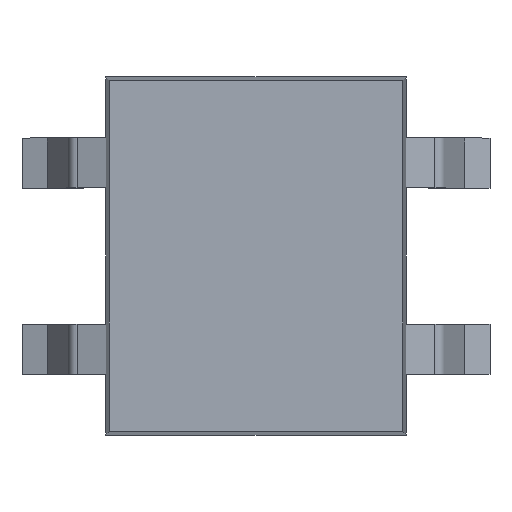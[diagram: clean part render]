
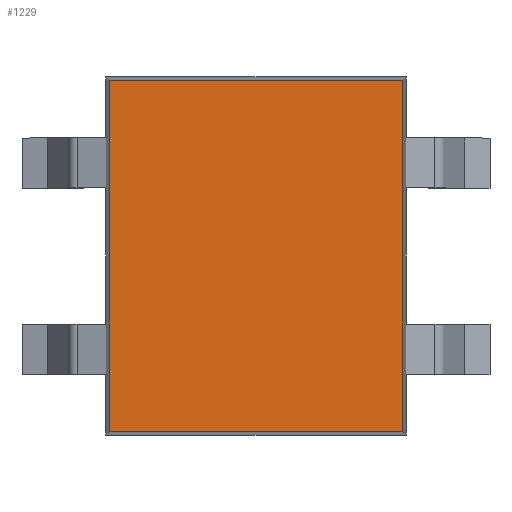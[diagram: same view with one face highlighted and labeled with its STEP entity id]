
A CAD part, top view. The second image highlights one B-rep face of the part: STEP entity #1229.
In plain terms, the highlighted planar face has unit normal (0, 0, 1).
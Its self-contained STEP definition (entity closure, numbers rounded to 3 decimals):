
#32 = PLANE('',#33);
#33 = AXIS2_PLACEMENT_3D('',#34,#35,#36);
#34 = CARTESIAN_POINT('',(2.075,0.,2.22));
#35 = DIRECTION('',(0.999,0.,0.037
    ));
#36 = DIRECTION('',(-0.037,0.,
    0.999));
#57 = VERTEX_POINT('',#58);
#58 = CARTESIAN_POINT('',(2.05,2.45,2.9));
#72 = PLANE('',#73);
#73 = AXIS2_PLACEMENT_3D('',#74,#75,#76);
#74 = CARTESIAN_POINT('',(0.,2.475,2.219));
#75 = DIRECTION('',(0.,0.999,0.037
    ));
#76 = DIRECTION('',(0.,-0.037,0.999));
#84 = EDGE_CURVE('',#85,#57,#87,.T.);
#85 = VERTEX_POINT('',#86);
#86 = CARTESIAN_POINT('',(2.05,-2.45,2.9));
#87 = SURFACE_CURVE('',#88,(#92,#99),.PCURVE_S1.);
#88 = LINE('',#89,#90);
#89 = CARTESIAN_POINT('',(2.05,-2.45,2.9));
#90 = VECTOR('',#91,1.);
#91 = DIRECTION('',(0.,1.,0.));
#92 = PCURVE('',#32,#93);
#93 = DEFINITIONAL_REPRESENTATION('',(#94),#98);
#94 = LINE('',#95,#96);
#95 = CARTESIAN_POINT('',(0.681,2.45));
#96 = VECTOR('',#97,1.);
#97 = DIRECTION('',(0.,-1.));
#98 = ( GEOMETRIC_REPRESENTATION_CONTEXT(2) 
PARAMETRIC_REPRESENTATION_CONTEXT() REPRESENTATION_CONTEXT('2D SPACE',''
  ) );
#99 = PCURVE('',#100,#105);
#100 = PLANE('',#101);
#101 = AXIS2_PLACEMENT_3D('',#102,#103,#104);
#102 = CARTESIAN_POINT('',(0.,0.,2.9)
  );
#103 = DIRECTION('',(0.,0.,1.));
#104 = DIRECTION('',(1.,0.,0.));
#105 = DEFINITIONAL_REPRESENTATION('',(#106),#110);
#106 = LINE('',#107,#108);
#107 = CARTESIAN_POINT('',(2.05,-2.45));
#108 = VECTOR('',#109,1.);
#109 = DIRECTION('',(0.,1.));
#110 = ( GEOMETRIC_REPRESENTATION_CONTEXT(2) 
PARAMETRIC_REPRESENTATION_CONTEXT() REPRESENTATION_CONTEXT('2D SPACE',''
  ) );
#128 = PLANE('',#129);
#129 = AXIS2_PLACEMENT_3D('',#130,#131,#132);
#130 = CARTESIAN_POINT('',(0.,-2.475,2.219));
#131 = DIRECTION('',(0.,-0.999,0.037));
#132 = DIRECTION('',(0.,-0.037,-0.999));
#1181 = EDGE_CURVE('',#1182,#85,#1184,.T.);
#1182 = VERTEX_POINT('',#1183);
#1183 = CARTESIAN_POINT('',(-2.05,-2.45,2.9));
#1184 = SURFACE_CURVE('',#1185,(#1189,#1196),.PCURVE_S1.);
#1185 = LINE('',#1186,#1187);
#1186 = CARTESIAN_POINT('',(-2.05,-2.45,2.9));
#1187 = VECTOR('',#1188,1.);
#1188 = DIRECTION('',(1.,0.,0.));
#1189 = PCURVE('',#128,#1190);
#1190 = DEFINITIONAL_REPRESENTATION('',(#1191),#1195);
#1191 = LINE('',#1192,#1193);
#1192 = CARTESIAN_POINT('',(-0.682,-2.05));
#1193 = VECTOR('',#1194,1.);
#1194 = DIRECTION('',(0.,1.));
#1195 = ( GEOMETRIC_REPRESENTATION_CONTEXT(2) 
PARAMETRIC_REPRESENTATION_CONTEXT() REPRESENTATION_CONTEXT('2D SPACE',''
  ) );
#1196 = PCURVE('',#100,#1197);
#1197 = DEFINITIONAL_REPRESENTATION('',(#1198),#1202);
#1198 = LINE('',#1199,#1200);
#1199 = CARTESIAN_POINT('',(-2.05,-2.45));
#1200 = VECTOR('',#1201,1.);
#1201 = DIRECTION('',(1.,0.));
#1202 = ( GEOMETRIC_REPRESENTATION_CONTEXT(2) 
PARAMETRIC_REPRESENTATION_CONTEXT() REPRESENTATION_CONTEXT('2D SPACE',''
  ) );
#1218 = PLANE('',#1219);
#1219 = AXIS2_PLACEMENT_3D('',#1220,#1221,#1222);
#1220 = CARTESIAN_POINT('',(-2.075,0.,2.22));
#1221 = DIRECTION('',(-0.999,0.,
    0.037));
#1222 = DIRECTION('',(-0.037,0.,-0.999));
#1229 = ADVANCED_FACE('',(#1230),#100,.T.);
#1230 = FACE_BOUND('',#1231,.T.);
#1231 = EDGE_LOOP('',(#1232,#1233,#1256,#1277));
#1232 = ORIENTED_EDGE('',*,*,#84,.T.);
#1233 = ORIENTED_EDGE('',*,*,#1234,.T.);
#1234 = EDGE_CURVE('',#57,#1235,#1237,.T.);
#1235 = VERTEX_POINT('',#1236);
#1236 = CARTESIAN_POINT('',(-2.05,2.45,2.9));
#1237 = SURFACE_CURVE('',#1238,(#1242,#1249),.PCURVE_S1.);
#1238 = LINE('',#1239,#1240);
#1239 = CARTESIAN_POINT('',(2.05,2.45,2.9));
#1240 = VECTOR('',#1241,1.);
#1241 = DIRECTION('',(-1.,0.,0.));
#1242 = PCURVE('',#100,#1243);
#1243 = DEFINITIONAL_REPRESENTATION('',(#1244),#1248);
#1244 = LINE('',#1245,#1246);
#1245 = CARTESIAN_POINT('',(2.05,2.45));
#1246 = VECTOR('',#1247,1.);
#1247 = DIRECTION('',(-1.,0.));
#1248 = ( GEOMETRIC_REPRESENTATION_CONTEXT(2) 
PARAMETRIC_REPRESENTATION_CONTEXT() REPRESENTATION_CONTEXT('2D SPACE',''
  ) );
#1249 = PCURVE('',#72,#1250);
#1250 = DEFINITIONAL_REPRESENTATION('',(#1251),#1255);
#1251 = LINE('',#1252,#1253);
#1252 = CARTESIAN_POINT('',(0.682,2.05));
#1253 = VECTOR('',#1254,1.);
#1254 = DIRECTION('',(0.,-1.));
#1255 = ( GEOMETRIC_REPRESENTATION_CONTEXT(2) 
PARAMETRIC_REPRESENTATION_CONTEXT() REPRESENTATION_CONTEXT('2D SPACE',''
  ) );
#1256 = ORIENTED_EDGE('',*,*,#1257,.T.);
#1257 = EDGE_CURVE('',#1235,#1182,#1258,.T.);
#1258 = SURFACE_CURVE('',#1259,(#1263,#1270),.PCURVE_S1.);
#1259 = LINE('',#1260,#1261);
#1260 = CARTESIAN_POINT('',(-2.05,2.45,2.9));
#1261 = VECTOR('',#1262,1.);
#1262 = DIRECTION('',(0.,-1.,0.));
#1263 = PCURVE('',#100,#1264);
#1264 = DEFINITIONAL_REPRESENTATION('',(#1265),#1269);
#1265 = LINE('',#1266,#1267);
#1266 = CARTESIAN_POINT('',(-2.05,2.45));
#1267 = VECTOR('',#1268,1.);
#1268 = DIRECTION('',(0.,-1.));
#1269 = ( GEOMETRIC_REPRESENTATION_CONTEXT(2) 
PARAMETRIC_REPRESENTATION_CONTEXT() REPRESENTATION_CONTEXT('2D SPACE',''
  ) );
#1270 = PCURVE('',#1218,#1271);
#1271 = DEFINITIONAL_REPRESENTATION('',(#1272),#1276);
#1272 = LINE('',#1273,#1274);
#1273 = CARTESIAN_POINT('',(-0.681,-2.45));
#1274 = VECTOR('',#1275,1.);
#1275 = DIRECTION('',(0.,1.));
#1276 = ( GEOMETRIC_REPRESENTATION_CONTEXT(2) 
PARAMETRIC_REPRESENTATION_CONTEXT() REPRESENTATION_CONTEXT('2D SPACE',''
  ) );
#1277 = ORIENTED_EDGE('',*,*,#1181,.T.);
